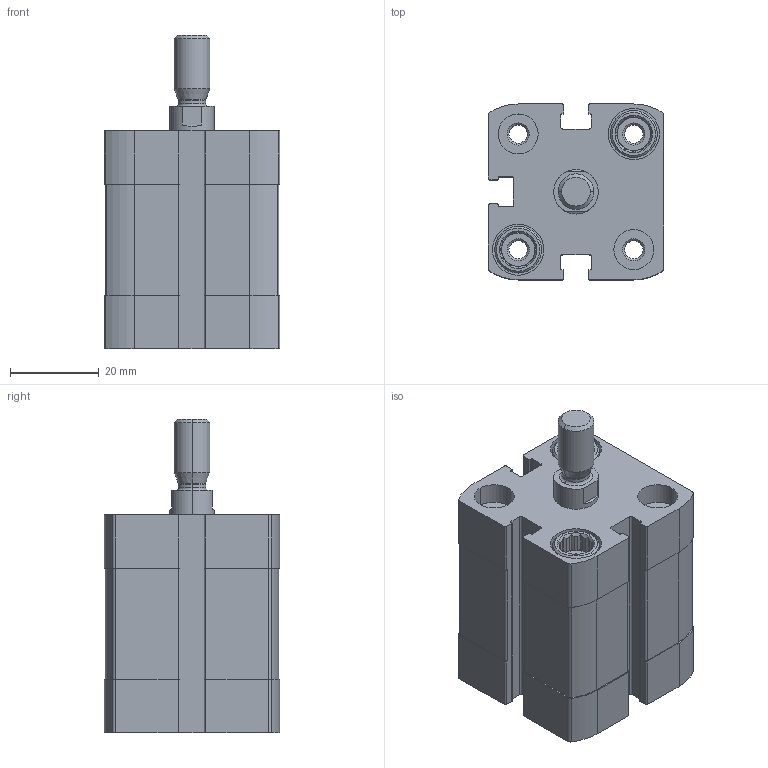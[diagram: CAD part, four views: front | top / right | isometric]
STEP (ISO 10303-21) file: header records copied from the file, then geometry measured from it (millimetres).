
FILE_DESCRIPTION (( 'STEP AP203' ), '1' );
FILE_NAME ('CCN25-10M.STEP', '2017-03-28T17:52:41', ( '' ), ( '' ), 'SwSTEP 2.0', 'SolidWorks 2016', '' );
FILE_SCHEMA (( 'CONFIG_CONTROL_DESIGN' ));
Length unit declared in the file: millimetre
Products named in the file (3): CCN-10-_(KS); CCN25-10M; CCN-10---(Z)
Assembly tree (2 placements, depth 2):
  CCN25-10M
    CCN-10---(Z)
    CCN-10-_(KS)
Bounding box: 39.5 x 39.5 x 70.5 mm (x, y, z)
Volume: 61021.2 mm3; surface area: 23189.7 mm2
Topology: 2 solids, 2 shells, 409 faces, 1082 edges, 708 vertices
Faces by surface type: plane 231, cylinder 134, cone 40, bspline 4
Entity records: 13213 total; most frequent: CARTESIAN_POINT 2564, DIRECTION 2218, ORIENTED_EDGE 2164, EDGE_CURVE 1082, AXIS2_PLACEMENT_3D 826, VERTEX_POINT 708, LINE 566, VECTOR 566
